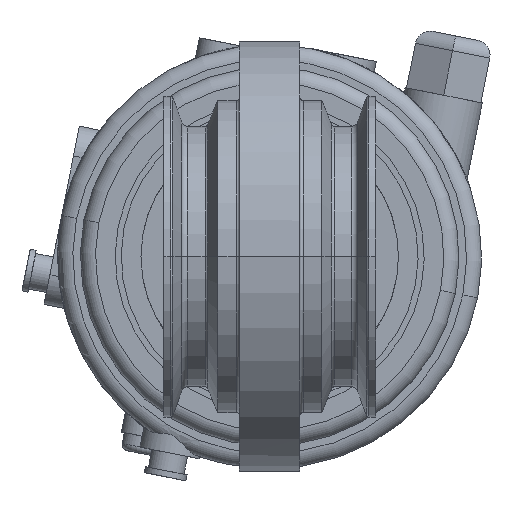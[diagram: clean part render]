
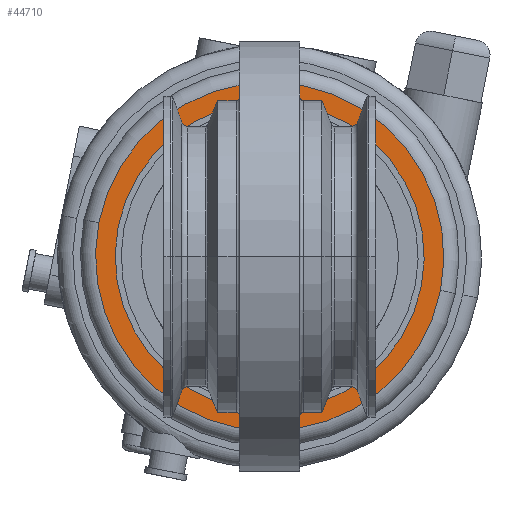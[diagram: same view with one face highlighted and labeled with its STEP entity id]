
A CAD part, front view. The second image highlights one B-rep face of the part: STEP entity #44710.
In plain terms, the highlighted planar face has unit normal (0, -1, 0).
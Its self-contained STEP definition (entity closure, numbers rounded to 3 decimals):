
#43290=CARTESIAN_POINT('',(-51.,6.224,0.));
#43300=VERTEX_POINT('',#43290);
#43460=CARTESIAN_POINT('',(51.,6.224,0.));
#43470=VERTEX_POINT('',#43460);
#43500=CARTESIAN_POINT('',(0.,6.224,0.));
#43510=DIRECTION('',(0.,1.,0.));
#43520=DIRECTION('',(-1.,0.,0.));
#43530=AXIS2_PLACEMENT_3D('',#43500,#43510,#43520);
#43540=CIRCLE('',#43530,51.);
#43550=EDGE_CURVE('',#43470,#43300,#43540,.T.);
#43720=CARTESIAN_POINT('',(57.5,6.224,0.));
#43730=VERTEX_POINT('',#43720);
#43940=CARTESIAN_POINT('',(-57.5,6.224,0.));
#43950=VERTEX_POINT('',#43940);
#43980=CARTESIAN_POINT('',(0.,6.224,0.));
#43990=DIRECTION('',(0.,1.,0.));
#44000=DIRECTION('',(0.,0.,1.));
#44010=AXIS2_PLACEMENT_3D('',#43980,#43990,#44000);
#44020=CIRCLE('',#44010,57.5);
#44030=EDGE_CURVE('',#43730,#43950,#44020,.T.);
#44560=CARTESIAN_POINT('',(0.,6.224,0.));
#44570=DIRECTION('',(0.,1.,0.));
#44580=DIRECTION('',(0.,0.,1.));
#44590=AXIS2_PLACEMENT_3D('',#44560,#44570,#44580);
#44600=PLANE('',#44590);
#44610=EDGE_CURVE('',#43300,#43470,#43540,.T.);
#44620=ORIENTED_EDGE('',*,*,#44610,.T.);
#44630=ORIENTED_EDGE('',*,*,#43550,.T.);
#44640=EDGE_LOOP('',(#44630,#44620));
#44650=FACE_BOUND('',#44640,.T.);
#44660=EDGE_CURVE('',#43950,#43730,#44020,.T.);
#44670=ORIENTED_EDGE('',*,*,#44660,.F.);
#44680=ORIENTED_EDGE('',*,*,#44030,.F.);
#44690=EDGE_LOOP('',(#44680,#44670));
#44700=FACE_OUTER_BOUND('',#44690,.T.);
#44710=ADVANCED_FACE('',(#44650,#44700),#44600,.F.);
